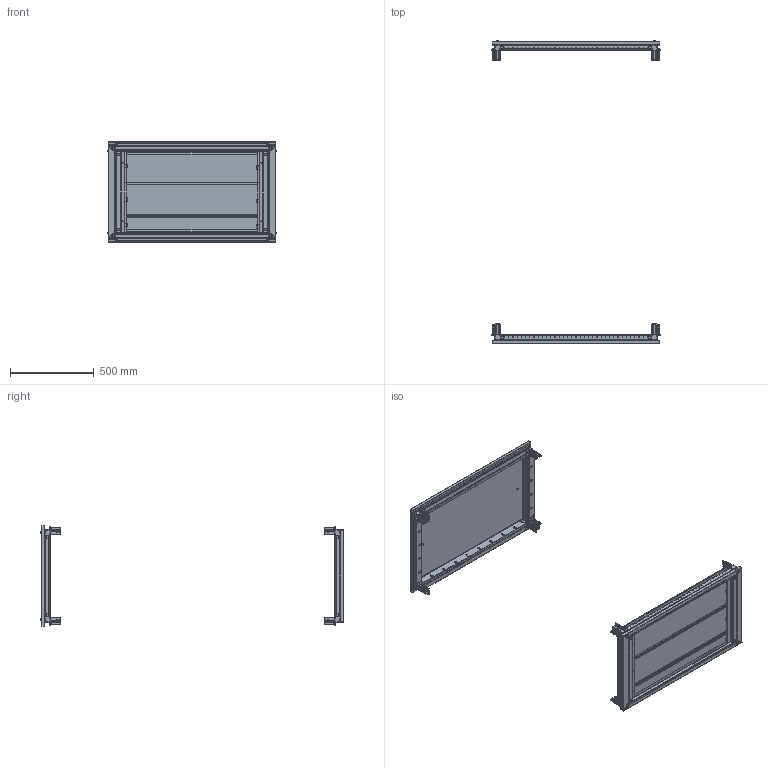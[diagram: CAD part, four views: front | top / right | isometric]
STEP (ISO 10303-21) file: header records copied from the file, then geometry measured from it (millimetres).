
FILE_DESCRIPTION(('CAx-IF Rec.Pracs.---Model Styling and Organization---1.2---2011-12-15','CAx-IF Rec.Pracs.---Geometric and Assembly Validation Properties---4.1---2014-06-16','CAx-IF Rec.Pracs.---PMI Polyline Presentation---2.0---2013-05-24'),'2;1');
FILE_NAME('R5GTB106 (1800).stp','2021-05-06T06:09:48+03:00',(''),(''),'STEP Interface 4.4 by CT CoreTechnologie','3D_Evolution4.4 by CT CoreTechnologie','');
FILE_SCHEMA(('AUTOMOTIVE_DESIGN { 1 0 10303 214 1 1 1 1 }'));
Length unit declared in the file: millimetre
Products named in the file (22): R5KTB106; CBA106; QB01T061; QB01C033; QB01C039; AC00C469S-OLD; AC00C469D-OLD; Ac00c561; QB04C034; A0200018; AC00C191; QB04T013; QB04C016; QB04C020; GUARNIZIONE  TETTI_1000x600; QB04C032; CTE106; A0500003; A0300026; QB03T094; AC00C061_AC00C061; QB03C094_Piegato
Assembly tree (44 placements, depth 4):
  R5KTB106
    CBA106
      QB01T061
        QB01C033  x2
        QB01C039  x2
        AC00C469S-OLD  x2
        AC00C469D-OLD  x2
      Ac00c561  x6
      QB04C034  x2
      A0200018  x4
      AC00C191  x2
      QB04T013
        QB04C016  x2
        QB04C020  x2
        GUARNIZIONE  TETTI_1000x600
      QB04C032
    CTE106
      A0500003  x4
      A0300026  x2
      QB03T094
        AC00C061_AC00C061  x2
        GUARNIZIONE  TETTI_1000x600
        QB03C094_Piegato
      QB01T061
        QB01C033  x2
        QB01C039  x2
        AC00C469S-OLD  x2
        AC00C469D-OLD  x2
Bounding box: 1000.5 x 1806.6 x 599 mm (x, y, z)
Surface area: 4720701.2 mm2 (no closed solid volume)
Topology: 0 solids, 78 shells, 7647 faces, 19737 edges, 12762 vertices
Faces by surface type: plane 4263, cylinder 2500, bspline 884
Entity records: 71566 total; most frequent: CARTESIAN_POINT 16678, ORIENTED_EDGE 11158, DIRECTION 10960, EDGE_CURVE 5579, VECTOR 3888, LINE 3888, VERTEX_POINT 3651, AXIS2_PLACEMENT_3D 3536
